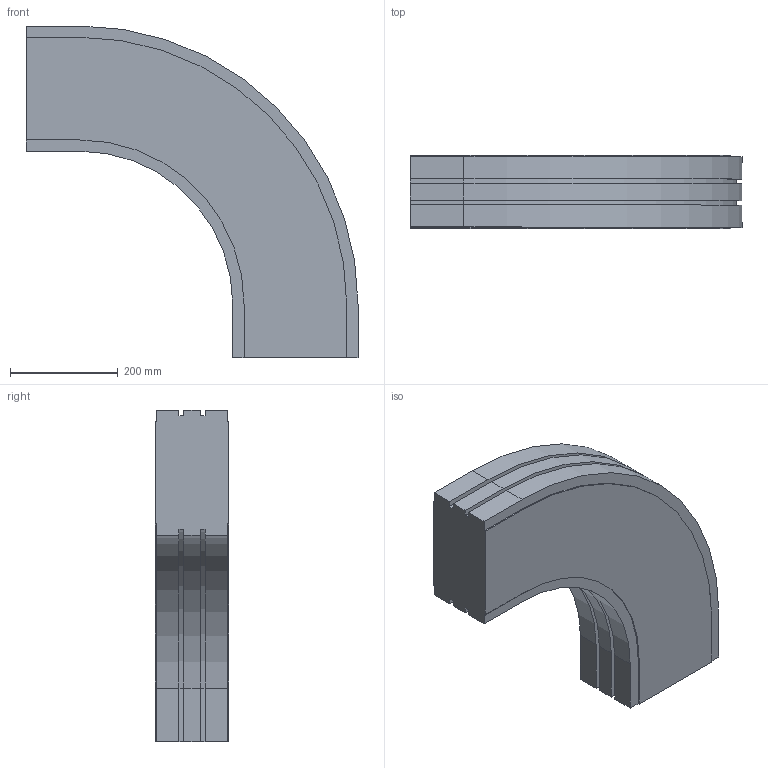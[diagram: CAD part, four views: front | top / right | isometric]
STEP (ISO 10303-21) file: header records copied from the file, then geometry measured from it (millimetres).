
FILE_DESCRIPTION (( 'STEP AP214' ), '1' );
FILE_NAME ('02.150H90.230.N FS-MTC-150 Bocht horizontaal 90°.STEP', '2013-03-29T11:13:38', ( 'Gebruiker' ), ( '' ), 'SwSTEP 2.0', 'SolidWorks 2012', '' );
FILE_SCHEMA (( 'AUTOMOTIVE_DESIGN' ));
Length unit declared in the file: millimetre
Products named in the file (1): 02.150H90.230.N FS-MTC-150 Bocht horizontaal 90°
Bounding box: 616.25 x 136 x 616.25 mm (x, y, z)
Volume: 25707693.9 mm3; surface area: 745434.8 mm2
Topology: 1 solids, 1 shells, 58 faces, 168 edges, 112 vertices
Faces by surface type: plane 44, cylinder 14
Entity records: 1934 total; most frequent: CARTESIAN_POINT 339, ORIENTED_EDGE 336, DIRECTION 314, EDGE_CURVE 168, LINE 140, VECTOR 140, VERTEX_POINT 112, AXIS2_PLACEMENT_3D 87
